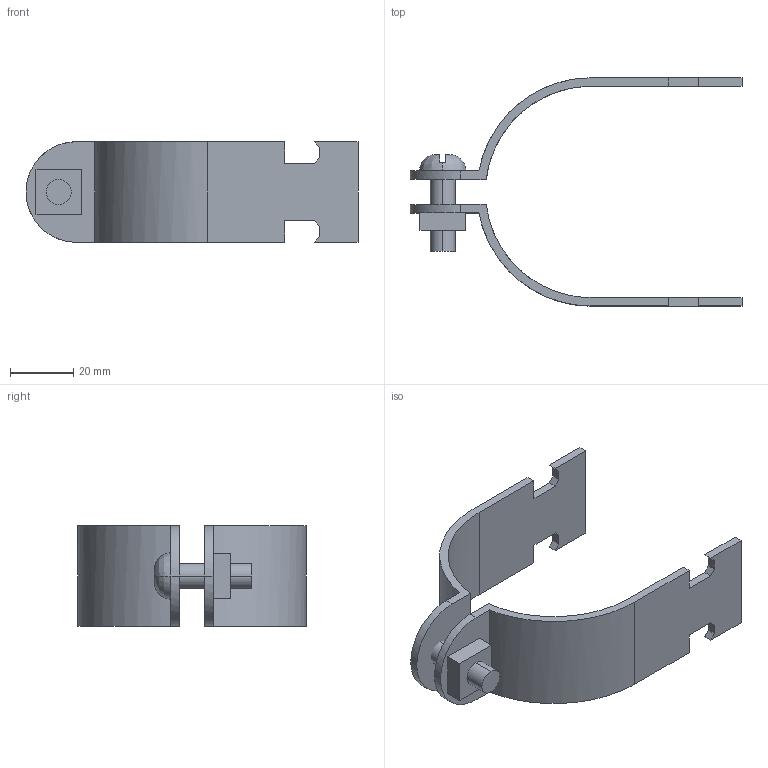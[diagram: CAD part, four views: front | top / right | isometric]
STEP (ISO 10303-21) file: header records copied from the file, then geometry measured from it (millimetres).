
FILE_DESCRIPTION(('TurboCAD Mac Pro'),'Build 980');
FILE_NAME('P2043.stp',' ',(''),(''),'ACIS Interop','IMSI','TurboCAD Mac Pro BY IMSI, INCORPORATED');
FILE_SCHEMA(('automotive_design'));
Length unit declared in the file: inch
Products named in the file (5): 1; 2; 3; 4; 5
Bounding box: 104.8 x 72.02 x 31.74 mm (x, y, z)
Volume: 21617.5 mm3; surface area: 17786 mm2
Topology: 4 solids, 4 shells, 75 faces, 194 edges, 128 vertices
Faces by surface type: plane 51, bspline 24
Entity records: 3631 total; most frequent: CARTESIAN_POINT 1138, ORIENTED_EDGE 388, DIRECTION 262, EDGE_CURVE 194, LINE 142, VECTOR 142, VERTEX_POINT 128, STYLED_ITEM 91
